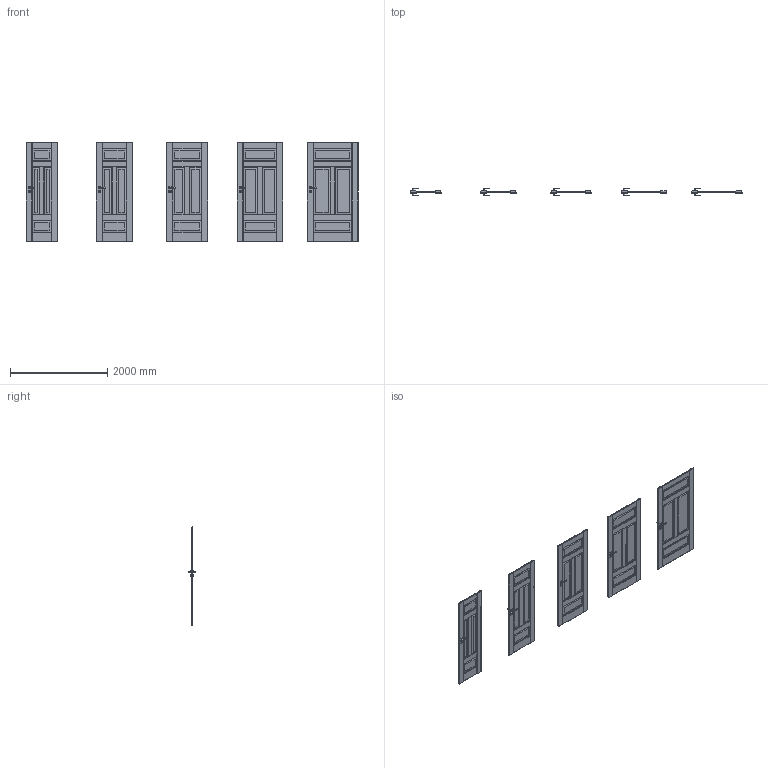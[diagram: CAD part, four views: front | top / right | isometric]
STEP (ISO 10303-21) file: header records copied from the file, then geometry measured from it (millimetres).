
FILE_DESCRIPTION(/* description */ (''),/* implementation_level */ '2;1');
FILE_NAME(/* name */ '049806_A_2-Skrzydło Harmony model B_ polska norma _PN__ przylgowe..stp',/* time_stamp */ '2024-08-21T08:28:47+02:00',/* author */ (''),/* organization */ (''),/* preprocessor_version */ 'ST-DEVELOPER v16',/* originating_system */ 'SIEMENS PLM Software NX 11.0',/* authorisation */ '');
FILE_SCHEMA (('AUTOMOTIVE_DESIGN { 1 0 10303 214 3 1 1 1 }'));
Products named in the file (1): bkni2BD4327Fk11m
Bounding box: 6844 x 153.13 x 2030.01 mm (x, y, z)
Volume: 218526813.3 mm3; surface area: 19641691.4 mm2
Topology: 25 solids, 25 shells, 2375 faces, 6030 edges, 3650 vertices
Faces by surface type: plane 1245, cylinder 830, bspline 160, sphere 140
Entity records: 76838 total; most frequent: CARTESIAN_POINT 20891, ORIENTED_EDGE 11780, DIRECTION 11312, EDGE_CURVE 5890, LINE 3890, VECTOR 3890, AXIS2_PLACEMENT_3D 3711, VERTEX_POINT 3650
